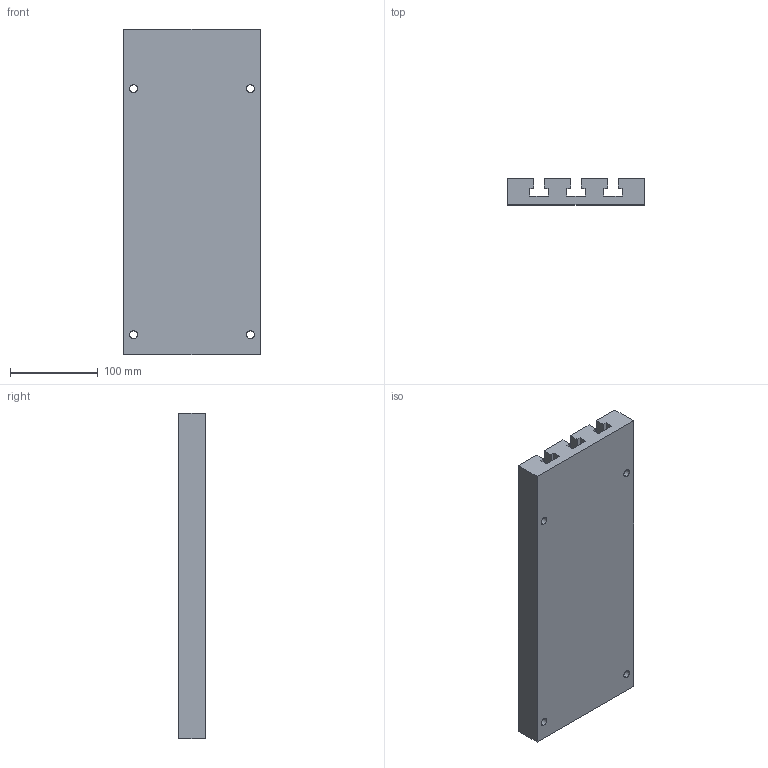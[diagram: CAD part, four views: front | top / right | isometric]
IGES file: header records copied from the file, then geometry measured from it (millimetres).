
Start section: SolidWorks IGES file using analytic representation for surfaces
Global section: file name: R:\Drawings\Files saved as other types\Solid_Models\MODELS FOR PUBLIC\SHORT GANG PLATE.IGS; native system: SolidWorks 2012; preprocessor: SolidWorks 2012; author: RTooley; date: 131220.093135; units: millimetre
Bounding box: 155 x 30 x 370 mm (x, y, z)
Surface area: 212216.6 mm2 (no closed solid volume)
Topology: 0 solids, 0 shells, 50 faces, 744 edges, 744 vertices
Faces by surface type: bspline 34, revolution 16
